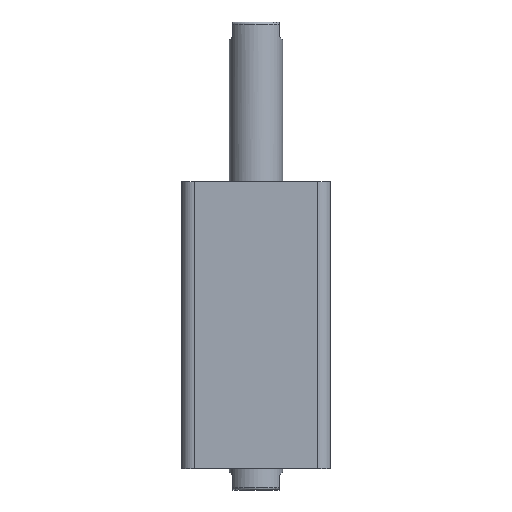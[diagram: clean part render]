
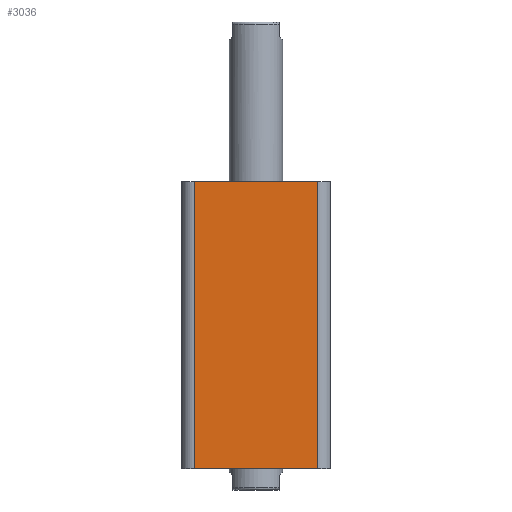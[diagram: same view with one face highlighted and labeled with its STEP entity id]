
A CAD part, front view. The second image highlights one B-rep face of the part: STEP entity #3036.
In plain terms, the highlighted planar face has unit normal (0, -1, 0).
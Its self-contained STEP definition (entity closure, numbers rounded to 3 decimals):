
#49 = LINE ( 'NONE', #2610, #62 ) ;
#55 = LINE ( 'NONE', #2620, #58 ) ;
#57 = LINE ( 'NONE', #2622, #60 ) ;
#58 = VECTOR ( 'NONE', #2621, 1000. ) ;
#60 = VECTOR ( 'NONE', #2623, 1000. ) ;
#61 = LINE ( 'NONE', #2625, #64 ) ;
#62 = VECTOR ( 'NONE', #2624, 1000. ) ;
#64 = VECTOR ( 'NONE', #2626, 1000. ) ;
#170 = FACE_OUTER_BOUND ( 'NONE', #1447, .T. ) ;
#372 = ORIENTED_EDGE ( 'NONE', *, *, #2220, .F. ) ;
#373 = ORIENTED_EDGE ( 'NONE', *, *, #2221, .T. ) ;
#374 = ORIENTED_EDGE ( 'NONE', *, *, #2222, .T. ) ;
#375 = ORIENTED_EDGE ( 'NONE', *, *, #2223, .T. ) ;
#545 = VERTEX_POINT ( 'NONE', #835 ) ;
#546 = VERTEX_POINT ( 'NONE', #827 ) ;
#547 = VERTEX_POINT ( 'NONE', #830 ) ;
#827 = CARTESIAN_POINT ( 'NONE',  ( -29., -35., 0. ) ) ;
#830 = CARTESIAN_POINT ( 'NONE',  ( 29., -35., 135. ) ) ;
#835 = CARTESIAN_POINT ( 'NONE',  ( 29., -35., 0. ) ) ;
#869 = CARTESIAN_POINT ( 'NONE',  ( -29., -35., 135. ) ) ;
#1117 = VERTEX_POINT ( 'NONE', #869 ) ;
#1447 = EDGE_LOOP ( 'NONE', ( #372, #373, #374, #375 ) ) ;
#1727 = CARTESIAN_POINT ( 'NONE',  ( -35., -35., 135. ) ) ;
#1729 = PLANE ( 'NONE',  #2864 ) ;
#1731 = DIRECTION ( 'NONE',  ( 0., 1., 0. ) ) ;
#1732 = DIRECTION ( 'NONE',  ( 0., 0., 1. ) ) ;
#2220 = EDGE_CURVE ( 'NONE', #1117, #547, #55, .T. ) ;
#2221 = EDGE_CURVE ( 'NONE', #1117, #546, #57, .T. ) ;
#2222 = EDGE_CURVE ( 'NONE', #546, #545, #49, .T. ) ;
#2223 = EDGE_CURVE ( 'NONE', #545, #547, #61, .T. ) ;
#2610 = CARTESIAN_POINT ( 'NONE',  ( -35., -35., 0. ) ) ;
#2620 = CARTESIAN_POINT ( 'NONE',  ( -35., -35., 135. ) ) ;
#2621 = DIRECTION ( 'NONE',  ( 1., 0., 0. ) ) ;
#2622 = CARTESIAN_POINT ( 'NONE',  ( -29., -35., 135. ) ) ;
#2623 = DIRECTION ( 'NONE',  ( 0., 0., -1. ) ) ;
#2624 = DIRECTION ( 'NONE',  ( 1., 0., 0. ) ) ;
#2625 = CARTESIAN_POINT ( 'NONE',  ( 29., -35., 135. ) ) ;
#2626 = DIRECTION ( 'NONE',  ( 0., 0., 1. ) ) ;
#2864 = AXIS2_PLACEMENT_3D ( 'NONE', #1727, #1731, #1732 ) ;
#3036 = ADVANCED_FACE ( 'NONE', ( #170 ), #1729, .F. ) ;
